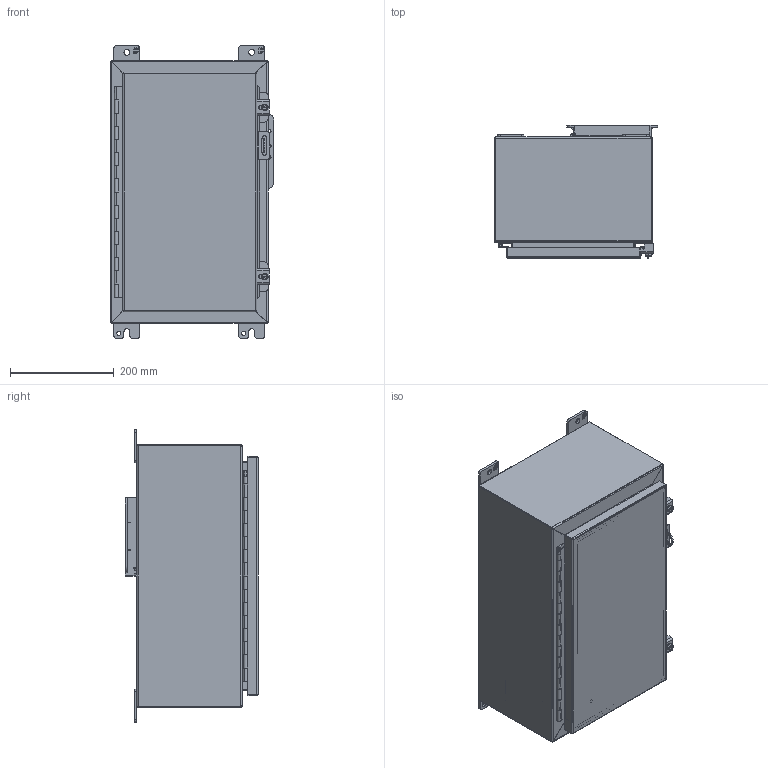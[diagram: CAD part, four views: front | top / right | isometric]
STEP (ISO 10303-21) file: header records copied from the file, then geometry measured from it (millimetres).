
FILE_DESCRIPTION(/* description */ ('Unknown'),/* implementation_level */ '2;1');
FILE_NAME(/* name */ '1418CA8LP',/* time_stamp */ '2026-02-20T16:29:17-05:00',/* author */ ('Unknown'),/* organization */ ('Unknown'),/* preprocessor_version */ 'ST-DEVELOPER v18.104',/* originating_system */ 'Solid Edge',/* authorisation */ 'Unknown');
FILE_SCHEMA (('AUTOMOTIVE_DESIGN {1 0 10303 214 3 1 1}'));
Length unit declared in the file: millimetre
Products named in the file (30): 1418CA8LP; STD26094; STD21878; COM42780; HNG10620-16B; COM40153-1; HNG10620-16P; COM71780-5; COM40153-2; HNG10620-16C; PNT11078; COM70219_oa_0; COM48470; FET07710; AKT90223; SPR20265; SCC19011; WAF25035; COM42667; BUL10020; QLB30109; PKT66; KIT90518; WAF25059; NTS166105; LAB30005; KIT90256; NTS165305; NTS16535
Assembly tree (40 placements, depth 3):
  1418CA8LP
    STD26094  x4
    STD21878
    COM42780  x2
    HNG10620-16B
    COM40153-1
    HNG10620-16P
    COM71780-5
      COM40153-2
      HNG10620-16C
      PNT11078
      COM71780-5
      STD21878
      COM70219_oa_0
    COM48470
    FET07710  x4
    PNT11078
    AKT90223  x2
      SPR20265
      SCC19011
      WAF25035
      COM42667
    BUL10020
    QLB30109
    PKT66
    KIT90518
      WAF25059
      NTS166105
      LAB30005
    KIT90256
      LAB30005
      NTS165305
      NTS16535
Bounding box: 315.37 x 257.18 x 565.15 mm (x, y, z)
Volume: 1609648.7 mm3; surface area: 1709129.2 mm2
Topology: 34 solids, 35 shells, 1175 faces, 2991 edges, 1914 vertices
Faces by surface type: plane 788, cylinder 290, bspline 49, cone 26, torus 20, sphere 2
Full cylindrical faces by diameter (mm): 3.175 x1, 4.763 x1, 4.976 x1, 5.41 x2, 6.198 x2, 6.35 x3, 6.731 x2, 7.137 x2, 7.805 x1, 7.938 x4, 8.382 x4, 9.525 x4, 9.906 x2, 11.113 x4, 11.303 x1, 12.7 x2, 16.51 x4, 25.4 x1, 88.9 x1
Entity records: 29349 total; most frequent: CARTESIAN_POINT 8179, ORIENTED_EDGE 4232, DIRECTION 3983, EDGE_CURVE 2116, LINE 1453, VECTOR 1453, VERTEX_POINT 1357, AXIS2_PLACEMENT_3D 1265
